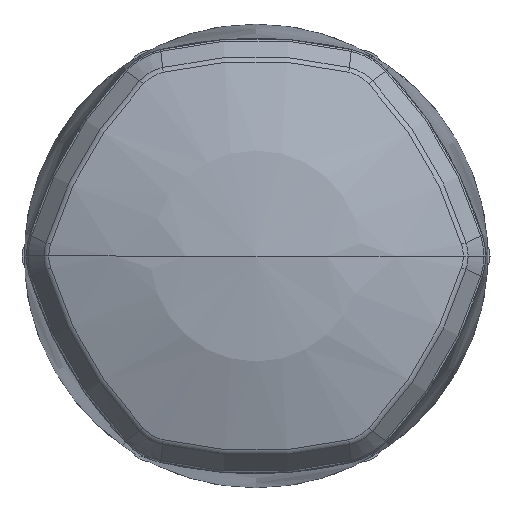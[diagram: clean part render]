
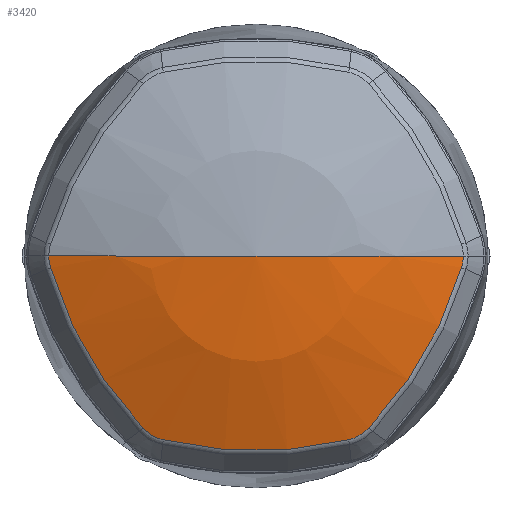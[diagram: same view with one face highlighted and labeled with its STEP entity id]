
A CAD part, left-side view. The second image highlights one B-rep face of the part: STEP entity #3420.
In plain terms, the highlighted spherical face has radius 10.833 mm.
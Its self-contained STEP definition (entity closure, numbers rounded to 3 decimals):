
#785=CARTESIAN_POINT('',(257.759,-2.19,-1.34));
#786=CARTESIAN_POINT('',(257.759,-2.19,-1.34));
#787=CARTESIAN_POINT('',(257.76,-2.182,-1.348));
#788=CARTESIAN_POINT('',(257.763,-2.165,-1.365));
#789=CARTESIAN_POINT('',(257.765,-2.14,-1.389));
#790=CARTESIAN_POINT('',(257.767,-2.115,-1.412));
#791=CARTESIAN_POINT('',(257.769,-2.088,-1.432));
#792=CARTESIAN_POINT('',(257.77,-2.06,-1.451));
#793=CARTESIAN_POINT('',(257.77,-2.032,-1.469));
#794=CARTESIAN_POINT('',(257.77,-2.003,-1.486));
#795=CARTESIAN_POINT('',(257.77,-1.975,-1.501));
#796=CARTESIAN_POINT('',(257.769,-1.947,-1.516));
#797=CARTESIAN_POINT('',(257.768,-1.918,-1.529));
#798=CARTESIAN_POINT('',(257.767,-1.889,-1.54));
#799=CARTESIAN_POINT('',(257.765,-1.859,-1.55));
#800=CARTESIAN_POINT('',(257.762,-1.829,-1.559));
#801=CARTESIAN_POINT('',(257.76,-1.808,-1.564));
#802=CARTESIAN_POINT('',(257.759,-1.797,-1.567));
#804=CARTESIAN_POINT('',(260.203,0.,4.888));
#805=DIRECTION('',(0.935,0.,-0.354));
#806=DIRECTION('',(-0.343,-0.252,-0.905));
#807=AXIS2_PLACEMENT_3D('',#804,#805,#806);
#809=CARTESIAN_POINT('',(257.759,1.797,-1.566));
#810=CARTESIAN_POINT('',(257.761,1.811,-1.563));
#811=CARTESIAN_POINT('',(257.763,1.837,-1.556));
#812=CARTESIAN_POINT('',(257.766,1.874,-1.546));
#813=CARTESIAN_POINT('',(257.769,1.909,-1.534));
#814=CARTESIAN_POINT('',(257.77,1.941,-1.522));
#815=CARTESIAN_POINT('',(257.771,1.973,-1.507));
#816=CARTESIAN_POINT('',(257.772,2.004,-1.49));
#817=CARTESIAN_POINT('',(257.772,2.034,-1.473));
#818=CARTESIAN_POINT('',(257.771,2.062,-1.455));
#819=CARTESIAN_POINT('',(257.77,2.088,-1.435));
#820=CARTESIAN_POINT('',(257.768,2.114,-1.414));
#821=CARTESIAN_POINT('',(257.766,2.14,-1.39));
#822=CARTESIAN_POINT('',(257.763,2.165,-1.366));
#823=CARTESIAN_POINT('',(257.76,2.182,-1.348));
#824=CARTESIAN_POINT('',(257.759,2.19,-1.339));
#825=CARTESIAN_POINT('',(257.759,2.19,-1.339));
#827=CARTESIAN_POINT('',(260.204,-2.501,3.444));
#828=DIRECTION('',(0.935,0.307,-0.177));
#829=DIRECTION('',(-0.343,0.658,-0.671));
#830=AXIS2_PLACEMENT_3D('',#827,#828,#829);
#832=CARTESIAN_POINT('',(257.759,3.987,1.772));
#833=CARTESIAN_POINT('',(257.76,3.99,1.782));
#834=CARTESIAN_POINT('',(257.762,3.996,1.804));
#835=CARTESIAN_POINT('',(257.765,4.004,1.835));
#836=CARTESIAN_POINT('',(257.767,4.011,1.866));
#837=CARTESIAN_POINT('',(257.768,4.015,1.898));
#838=CARTESIAN_POINT('',(257.769,4.018,1.931));
#839=CARTESIAN_POINT('',(257.77,4.02,1.966));
#840=CARTESIAN_POINT('',(257.77,4.02,1.988));
#841=CARTESIAN_POINT('',(257.77,4.02,2.));
#842=CARTESIAN_POINT('',(257.77,4.02,2.));
#844=CARTESIAN_POINT('',(267.83,0.,2.));
#845=DIRECTION('',(0.,0.,1.));
#846=DIRECTION('',(-0.929,0.371,0.));
#847=AXIS2_PLACEMENT_3D('',#844,#845,#846);
#849=CARTESIAN_POINT('',(257.772,-4.024,2.));
#850=CARTESIAN_POINT('',(257.772,-4.024,2.));
#851=CARTESIAN_POINT('',(257.772,-4.024,1.989));
#852=CARTESIAN_POINT('',(257.771,-4.024,1.967));
#853=CARTESIAN_POINT('',(257.771,-4.021,1.932));
#854=CARTESIAN_POINT('',(257.769,-4.018,1.899));
#855=CARTESIAN_POINT('',(257.768,-4.012,1.868));
#856=CARTESIAN_POINT('',(257.765,-4.005,1.837));
#857=CARTESIAN_POINT('',(257.762,-3.997,1.806));
#858=CARTESIAN_POINT('',(257.76,-3.99,1.784));
#859=CARTESIAN_POINT('',(257.759,-3.987,1.773));
#861=CARTESIAN_POINT('',(260.204,2.501,3.444));
#862=DIRECTION('',(0.935,-0.307,-0.177));
#863=DIRECTION('',(-0.343,-0.91,-0.234));
#864=AXIS2_PLACEMENT_3D('',#861,#862,#863);
#918=CARTESIAN_POINT('',(267.83,0.,2.));
#919=DIRECTION('',(0.,0.,-1.));
#920=DIRECTION('',(-0.928,-0.371,0.));
#921=AXIS2_PLACEMENT_3D('',#918,#919,#920);
#1843=VERTEX_POINT('',#785);
#1844=VERTEX_POINT('',#802);
#1845=CARTESIAN_POINT('',(257.759,1.797,-1.567));
#1846=VERTEX_POINT('',#1845);
#1847=VERTEX_POINT('',#825);
#1848=CARTESIAN_POINT('',(257.759,3.987,1.772));
#1849=VERTEX_POINT('',#1848);
#1850=VERTEX_POINT('',#842);
#1851=CARTESIAN_POINT('',(256.996,0.,2.));
#1852=VERTEX_POINT('',#1851);
#1853=CARTESIAN_POINT('',(257.772,-4.024,2.));
#1854=VERTEX_POINT('',#1853);
#1855=VERTEX_POINT('',#859);
#3396=CARTESIAN_POINT('',(267.83,0.,2.));
#3397=DIRECTION('',(-1.,0.,0.));
#3398=DIRECTION('',(0.,1.,0.));
#3399=AXIS2_PLACEMENT_3D('',#3396,#3397,#3398);
#3400=SPHERICAL_SURFACE('',#3399,10.833);
#3402=ORIENTED_EDGE('',*,*,#3401,.T.);
#3403=ORIENTED_EDGE('',*,*,#3386,.T.);
#3405=ORIENTED_EDGE('',*,*,#3404,.T.);
#3407=ORIENTED_EDGE('',*,*,#3406,.T.);
#3409=ORIENTED_EDGE('',*,*,#3408,.T.);
#3411=ORIENTED_EDGE('',*,*,#3410,.T.);
#3413=ORIENTED_EDGE('',*,*,#3412,.F.);
#3415=ORIENTED_EDGE('',*,*,#3414,.T.);
#3417=ORIENTED_EDGE('',*,*,#3416,.T.);
#3418=EDGE_LOOP('',(#3402,#3403,#3405,#3407,#3409,#3411,#3413,#3415,#3417));
#3419=FACE_OUTER_BOUND('',#3418,.F.);
#3420=ADVANCED_FACE('',(#3419),#3400,.T.);
#803=B_SPLINE_CURVE_WITH_KNOTS('',3,(#785,#786,#787,#788,#789,#790,#791,#792,
#793,#794,#795,#796,#797,#798,#799,#800,#801,#802),.UNSPECIFIED.,.F.,.F.,(4,1,1,
1,1,1,1,1,1,1,1,1,1,1,1,4),(0.,0.,0.075,
0.152,0.227,0.301,0.376,
0.448,0.517,0.586,0.655,
0.724,0.793,0.862,0.931,1.),
.UNSPECIFIED.);
#808=CIRCLE('',#807,7.132);
#826=B_SPLINE_CURVE_WITH_KNOTS('',3,(#809,#810,#811,#812,#813,#814,#815,#816,
#817,#818,#819,#820,#821,#822,#823,#824,#825),.UNSPECIFIED.,.F.,.F.,(4,1,1,1,1,
1,1,1,1,1,1,1,1,1,4),(0.,0.09,0.172,
0.249,0.325,0.403,0.48,
0.554,0.627,0.699,0.773,
0.848,0.922,1.,1.),.UNSPECIFIED.);
#831=CIRCLE('',#830,7.133);
#843=B_SPLINE_CURVE_WITH_KNOTS('',3,(#832,#833,#834,#835,#836,#837,#838,#839,
#840,#841,#842),.UNSPECIFIED.,.F.,.F.,(4,1,1,1,1,1,1,1,4),(0.,
0.138,0.277,0.419,0.563,
0.707,0.851,1.,1.),.UNSPECIFIED.);
#848=CIRCLE('',#847,10.833);
#860=B_SPLINE_CURVE_WITH_KNOTS('',3,(#849,#850,#851,#852,#853,#854,#855,#856,
#857,#858,#859),.UNSPECIFIED.,.F.,.F.,(4,1,1,1,1,1,1,1,4),(0.,
0.,0.143,0.294,0.441,
0.58,0.718,0.856,1.),.UNSPECIFIED.);
#865=CIRCLE('',#864,7.133);
#922=CIRCLE('',#921,10.833);
#3386=EDGE_CURVE('',#1844,#1846,#808,.T.);
#3401=EDGE_CURVE('',#1843,#1844,#803,.T.);
#3404=EDGE_CURVE('',#1846,#1847,#826,.T.);
#3406=EDGE_CURVE('',#1847,#1849,#831,.T.);
#3408=EDGE_CURVE('',#1849,#1850,#843,.T.);
#3410=EDGE_CURVE('',#1850,#1852,#848,.T.);
#3412=EDGE_CURVE('',#1854,#1852,#922,.T.);
#3414=EDGE_CURVE('',#1854,#1855,#860,.T.);
#3416=EDGE_CURVE('',#1855,#1843,#865,.T.);
